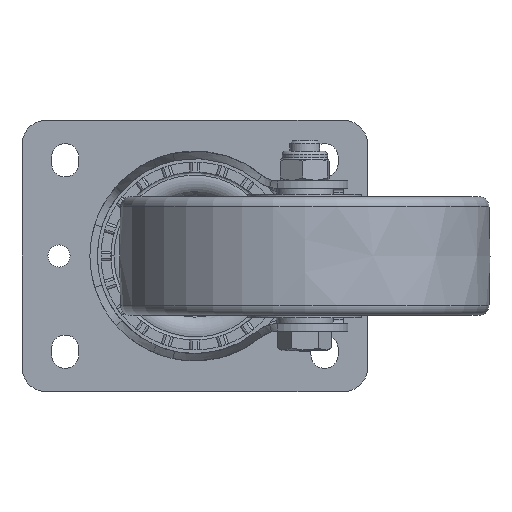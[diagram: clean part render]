
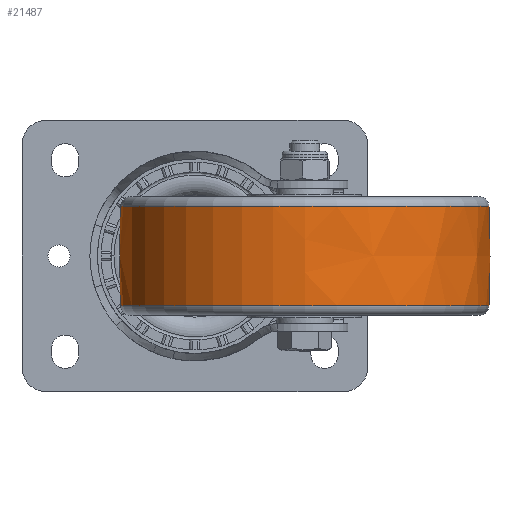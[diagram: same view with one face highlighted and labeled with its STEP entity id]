
A CAD part, front view. The second image highlights one B-rep face of the part: STEP entity #21487.
In plain terms, the highlighted free-form (B-spline) face has degree [2, 2] with [3, 9] control points.
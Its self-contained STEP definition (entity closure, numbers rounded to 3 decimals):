
#15=(
BOUNDED_SURFACE()
B_SPLINE_SURFACE(2,2,((#35653,#35654,#35655,#35656,#35657,#35658,#35659,
#35660,#35661),(#35662,#35663,#35664,#35665,#35666,#35667,#35668,#35669,
#35670),(#35671,#35672,#35673,#35674,#35675,#35676,#35677,#35678,#35679)),
 .UNSPECIFIED.,.F.,.T.,.F.)
B_SPLINE_SURFACE_WITH_KNOTS((3,3),(3,2,2,2,3),(-0.04,0.04),
(-3.142,-1.571,0.,1.571,3.142),
 .UNSPECIFIED.)
GEOMETRIC_REPRESENTATION_ITEM()
RATIONAL_B_SPLINE_SURFACE(((1.,0.707,1.,0.707,1.,
0.707,1.,0.707,1.),(0.999,0.707,
0.999,0.707,0.999,0.707,
0.999,0.707,0.999),(1.,0.707,
1.,0.707,1.,0.707,1.,0.707,1.)))
REPRESENTATION_ITEM('')
SURFACE()
);
#5465=FACE_OUTER_BOUND('',#6738,.T.);
#6738=EDGE_LOOP('',(#18159,#18160,#18161,#18162,#18163,#18164));
#7450=CIRCLE('',#22754,74.594);
#7451=CIRCLE('',#22755,74.594);
#7453=CIRCLE('',#22758,74.594);
#7454=CIRCLE('',#22759,500.5);
#7455=CIRCLE('',#22760,74.594);
#9906=VERTEX_POINT('',#35645);
#9907=VERTEX_POINT('',#35647);
#9909=VERTEX_POINT('',#35680);
#9910=VERTEX_POINT('',#35681);
#12769=EDGE_CURVE('',#9906,#9907,#7450,.T.);
#12770=EDGE_CURVE('',#9907,#9906,#7451,.T.);
#12772=EDGE_CURVE('',#9909,#9910,#7453,.T.);
#12773=EDGE_CURVE('',#9909,#9907,#7454,.T.);
#12774=EDGE_CURVE('',#9910,#9909,#7455,.T.);
#18159=ORIENTED_EDGE('',*,*,#12772,.F.);
#18160=ORIENTED_EDGE('',*,*,#12773,.T.);
#18161=ORIENTED_EDGE('',*,*,#12769,.F.);
#18162=ORIENTED_EDGE('',*,*,#12770,.F.);
#18163=ORIENTED_EDGE('',*,*,#12773,.F.);
#18164=ORIENTED_EDGE('',*,*,#12774,.F.);
#21487=ADVANCED_FACE('',(#5465),#15,.F.);
#22754=AXIS2_PLACEMENT_3D('',#35648,#26046,#26047);
#22755=AXIS2_PLACEMENT_3D('',#35649,#26048,#26049);
#22758=AXIS2_PLACEMENT_3D('',#35682,#26054,#26055);
#22759=AXIS2_PLACEMENT_3D('',#35683,#26056,#26057);
#22760=AXIS2_PLACEMENT_3D('',#35684,#26058,#26059);
#26046=DIRECTION('center_axis',(0.,0.,
-1.));
#26047=DIRECTION('ref_axis',(0.,1.,0.));
#26048=DIRECTION('center_axis',(0.,0.,
-1.));
#26049=DIRECTION('ref_axis',(0.,1.,0.));
#26054=DIRECTION('center_axis',(0.,0.,
1.));
#26055=DIRECTION('ref_axis',(0.,1.,0.));
#26056=DIRECTION('center_axis',(1.,0.,0.));
#26057=DIRECTION('ref_axis',(0.,-1.,0.));
#26058=DIRECTION('center_axis',(0.,0.,
1.));
#26059=DIRECTION('ref_axis',(0.,1.,0.));
#35645=CARTESIAN_POINT('',(44.5,-40.408,-20.161));
#35647=CARTESIAN_POINT('',(44.5,-189.595,-20.161));
#35648=CARTESIAN_POINT('Origin',(44.5,-115.001,-20.161));
#35649=CARTESIAN_POINT('Origin',(44.5,-115.001,-20.161));
#35653=CARTESIAN_POINT('Ctrl Pts',(44.5,-189.595,-20.161));
#35654=CARTESIAN_POINT('Ctrl Pts',(119.094,-189.595,-20.161));
#35655=CARTESIAN_POINT('Ctrl Pts',(119.094,-115.001,-20.161));
#35656=CARTESIAN_POINT('Ctrl Pts',(119.094,-40.408,-20.161));
#35657=CARTESIAN_POINT('Ctrl Pts',(44.5,-40.408,-20.161));
#35658=CARTESIAN_POINT('Ctrl Pts',(-30.094,-40.408,
-20.161));
#35659=CARTESIAN_POINT('Ctrl Pts',(-30.094,-115.001,
-20.161));
#35660=CARTESIAN_POINT('Ctrl Pts',(-30.094,-189.595,-20.161));
#35661=CARTESIAN_POINT('Ctrl Pts',(44.5,-189.595,-20.161));
#35662=CARTESIAN_POINT('Ctrl Pts',(44.5,-190.408,0.));
#35663=CARTESIAN_POINT('Ctrl Pts',(119.907,-190.408,0.));
#35664=CARTESIAN_POINT('Ctrl Pts',(119.907,-115.001,0.));
#35665=CARTESIAN_POINT('Ctrl Pts',(119.907,-39.595,0.));
#35666=CARTESIAN_POINT('Ctrl Pts',(44.5,-39.595,0.));
#35667=CARTESIAN_POINT('Ctrl Pts',(-30.907,-39.595,
0.));
#35668=CARTESIAN_POINT('Ctrl Pts',(-30.907,-115.001,
0.));
#35669=CARTESIAN_POINT('Ctrl Pts',(-30.907,-190.408,
0.));
#35670=CARTESIAN_POINT('Ctrl Pts',(44.5,-190.408,0.));
#35671=CARTESIAN_POINT('Ctrl Pts',(44.5,-189.595,20.161));
#35672=CARTESIAN_POINT('Ctrl Pts',(119.094,-189.595,20.161));
#35673=CARTESIAN_POINT('Ctrl Pts',(119.094,-115.001,20.161));
#35674=CARTESIAN_POINT('Ctrl Pts',(119.094,-40.408,20.161));
#35675=CARTESIAN_POINT('Ctrl Pts',(44.5,-40.408,20.161));
#35676=CARTESIAN_POINT('Ctrl Pts',(-30.094,-40.408,
20.161));
#35677=CARTESIAN_POINT('Ctrl Pts',(-30.094,-115.001,
20.161));
#35678=CARTESIAN_POINT('Ctrl Pts',(-30.094,-189.595,
20.161));
#35679=CARTESIAN_POINT('Ctrl Pts',(44.5,-189.595,20.161));
#35680=CARTESIAN_POINT('',(44.5,-189.595,20.161));
#35681=CARTESIAN_POINT('',(44.5,-40.408,20.161));
#35682=CARTESIAN_POINT('Origin',(44.5,-115.001,20.161));
#35683=CARTESIAN_POINT('Origin',(44.5,310.499,0.));
#35684=CARTESIAN_POINT('Origin',(44.5,-115.001,20.161));
